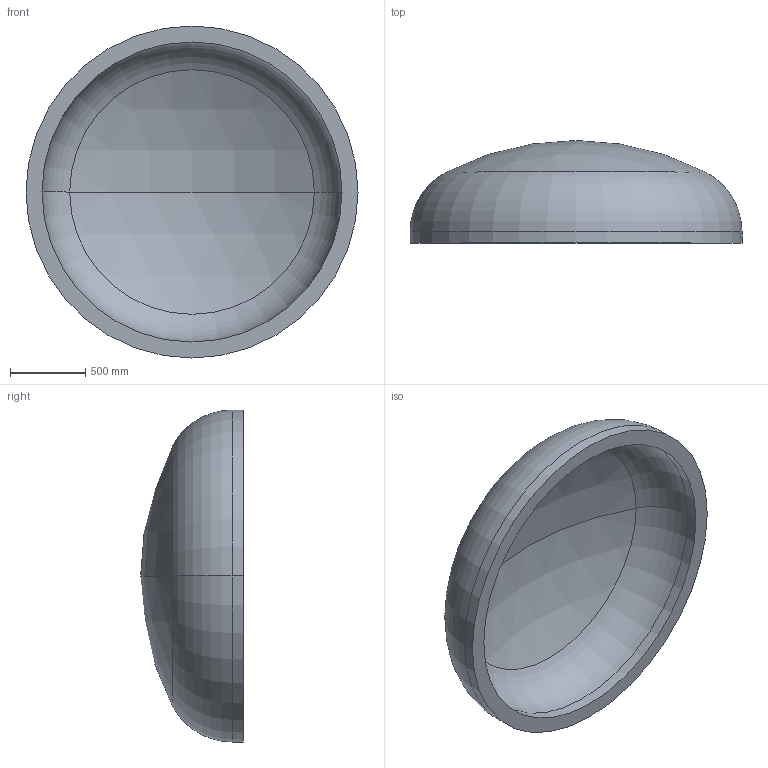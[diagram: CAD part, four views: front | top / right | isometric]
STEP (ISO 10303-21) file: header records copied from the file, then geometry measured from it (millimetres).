
FILE_DESCRIPTION (( 'STEP AP203' ), '1' );
FILE_NAME ('DIN 28013 Korbbogenform_-_Boden DIN 28013 - 2200 x 75 - I - s=106.step', '2016-07-01T14:56:01', ( '' ), ( '' ), 'SwSTEP 2.0', 'SolidWorks 2013', '' );
FILE_SCHEMA (( 'CONFIG_CONTROL_DESIGN' ));
Length unit declared in the file: millimetre
Products named in the file (1): DIN 28013 Korbbogenform_-_Boden DIN 28013 - 2200 x 75 - I - s=106
Bounding box: 2200 x 680.57 x 2200 mm (x, y, z)
Volume: 577192268.7 mm3; surface area: 11611270.1 mm2
Topology: 1 solids, 1 shells, 13 faces, 24 edges, 14 vertices
Faces by surface type: torus 4, cylinder 4, sphere 4, plane 1
Entity records: 407 total; most frequent: DIRECTION 72, CARTESIAN_POINT 52, ORIENTED_EDGE 48, AXIS2_PLACEMENT_3D 34, EDGE_CURVE 24, CIRCLE 20, EDGE_LOOP 14, VERTEX_POINT 14
